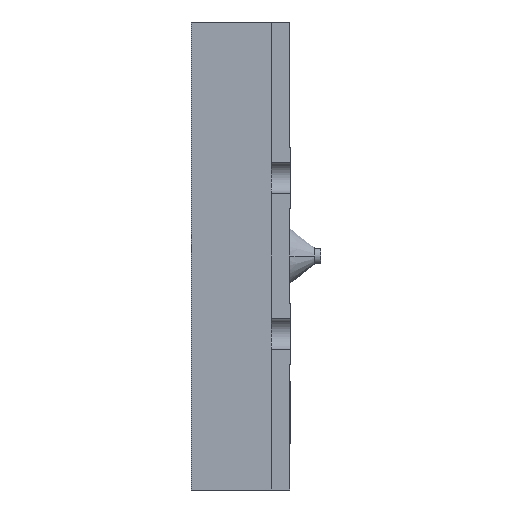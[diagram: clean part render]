
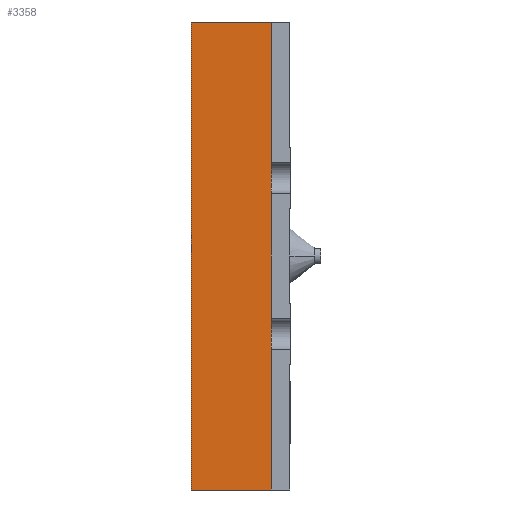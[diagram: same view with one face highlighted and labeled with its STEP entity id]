
A CAD part, left-side view. The second image highlights one B-rep face of the part: STEP entity #3358.
In plain terms, the highlighted planar face has unit normal (-1, 0, 0).
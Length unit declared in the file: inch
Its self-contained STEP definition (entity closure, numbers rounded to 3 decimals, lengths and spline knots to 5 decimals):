
#79 = LINE ( 'NONE', #3936, #853 ) ;
#102 = CARTESIAN_POINT ( 'NONE',  ( -0.29528, 0., 0.29921 ) ) ;
#147 = VERTEX_POINT ( 'NONE', #2204 ) ;
#255 = PLANE ( 'NONE',  #1956 ) ;
#491 = VECTOR ( 'NONE', #2542, 39.37008 ) ;
#589 = DIRECTION ( 'NONE',  ( -1., 0., 0. ) ) ;
#729 = DIRECTION ( 'NONE',  ( 0., -1., 0. ) ) ;
#831 = VERTEX_POINT ( 'NONE', #102 ) ;
#853 = VECTOR ( 'NONE', #3598, 39.37008 ) ;
#922 = EDGE_CURVE ( 'NONE', #1152, #831, #2990, .T. ) ;
#1152 = VERTEX_POINT ( 'NONE', #4178 ) ;
#1354 = EDGE_CURVE ( 'NONE', #1556, #831, #1383, .T. ) ;
#1383 = LINE ( 'NONE', #3785, #3973 ) ;
#1384 = LINE ( 'NONE', #2209, #491 ) ;
#1556 = VERTEX_POINT ( 'NONE', #3009 ) ;
#1851 = ORIENTED_EDGE ( 'NONE', *, *, #1354, .F. ) ;
#1956 = AXIS2_PLACEMENT_3D ( 'NONE', #2605, #589, #2956 ) ;
#1963 = ORIENTED_EDGE ( 'NONE', *, *, #2092, .T. ) ;
#2092 = EDGE_CURVE ( 'NONE', #1556, #147, #1384, .T. ) ;
#2186 = VECTOR ( 'NONE', #2487, 39.37008 ) ;
#2204 = CARTESIAN_POINT ( 'NONE',  ( -0.29528, 0.10236, -0.29921 ) ) ;
#2209 = CARTESIAN_POINT ( 'NONE',  ( -0.29528, 0.10236, -0.29921 ) ) ;
#2406 = FACE_OUTER_BOUND ( 'NONE', #4229, .T. ) ;
#2487 = DIRECTION ( 'NONE',  ( 0., 0., 1. ) ) ;
#2542 = DIRECTION ( 'NONE',  ( 0., 0., -1. ) ) ;
#2605 = CARTESIAN_POINT ( 'NONE',  ( -0.29528, 0., -0.29921 ) ) ;
#2929 = ORIENTED_EDGE ( 'NONE', *, *, #3960, .F. ) ;
#2956 = DIRECTION ( 'NONE',  ( 0., 0., 1. ) ) ;
#2990 = LINE ( 'NONE', #3833, #2186 ) ;
#3009 = CARTESIAN_POINT ( 'NONE',  ( -0.29528, 0.10236, 0.29921 ) ) ;
#3358 = ADVANCED_FACE ( 'NONE', ( #2406 ), #255, .T. ) ;
#3598 = DIRECTION ( 'NONE',  ( 0., 1., 0. ) ) ;
#3785 = CARTESIAN_POINT ( 'NONE',  ( -0.29528, 0., 0.29921 ) ) ;
#3833 = CARTESIAN_POINT ( 'NONE',  ( -0.29528, 0., 0. ) ) ;
#3878 = ORIENTED_EDGE ( 'NONE', *, *, #922, .T. ) ;
#3936 = CARTESIAN_POINT ( 'NONE',  ( -0.29528, 0., -0.29921 ) ) ;
#3960 = EDGE_CURVE ( 'NONE', #1152, #147, #79, .T. ) ;
#3973 = VECTOR ( 'NONE', #729, 39.37008 ) ;
#4178 = CARTESIAN_POINT ( 'NONE',  ( -0.29528, 0., -0.29921 ) ) ;
#4229 = EDGE_LOOP ( 'NONE', ( #2929, #3878, #1851, #1963 ) ) ;
